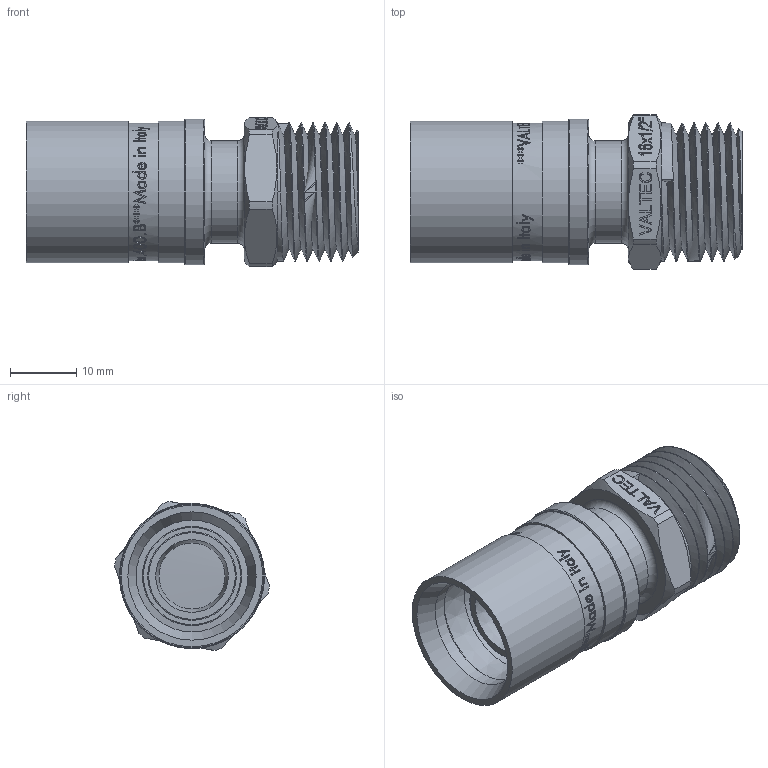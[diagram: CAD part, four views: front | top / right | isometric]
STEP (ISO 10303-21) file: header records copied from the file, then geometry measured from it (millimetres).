
FILE_DESCRIPTION(/* description */ (''),/* implementation_level */ '2;1');
FILE_NAME(/* name */ 'F:\Артём\00000\Работа удаленка\Аксеальные фитинги\VTm.401.BG.001604.stp',/* time_stamp */ '2021-01-25T14:10:12+03:00',/* author */ ('almis'),/* organization */ (''),/* preprocessor_version */ 'ST-DEVELOPER v18',/* originating_system */ 'Autodesk Inventor 2020',/* authorisation */ '');
FILE_SCHEMA (('AUTOMOTIVE_DESIGN { 1 0 10303 214 3 1 1 }'));
Length unit declared in the file: millimetre
Products named in the file (1): VTm.403.BG.001616
Bounding box: 50.21 x 23.42 x 22.55 mm (x, y, z)
Volume: 8522.3 mm3; surface area: 8658.6 mm2
Topology: 1 solids, 1 shells, 966 faces, 2648 edges, 1776 vertices
Faces by surface type: plane 423, bspline 407, cylinder 99, torus 24, cone 13
Full cylindrical faces by diameter (mm): 10 x1, 12.8 x5, 13.4 x4, 15 x1, 15.5 x2, 16.9 x2, 17.3 x7, 20.8 x1, 20.9 x6, 21.4 x2, 22 x1
Entity records: 38878 total; most frequent: CARTESIAN_POINT 16778, ORIENTED_EDGE 5296, DIRECTION 3300, EDGE_CURVE 2648, VERTEX_POINT 1776, LINE 1398, VECTOR 1398, EDGE_LOOP 1060
